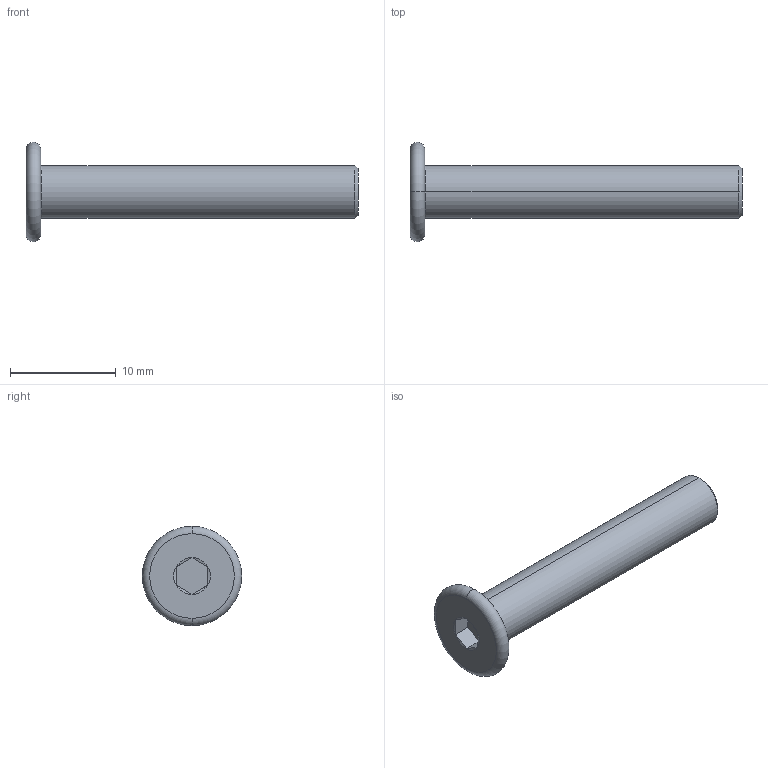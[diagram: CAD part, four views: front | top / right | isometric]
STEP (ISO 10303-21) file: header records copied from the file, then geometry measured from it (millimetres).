
FILE_DESCRIPTION (( 'STEP AP203' ), '1' );
FILE_NAME ('LGD-304M-M5x30.STEP', '2026-08-13T11:04:19', ( '' ), ( '' ), 'SwSTEP 2.0', 'SolidWorks 2020', '' );
FILE_SCHEMA (( 'CONFIG_CONTROL_DESIGN' ));
Length unit declared in the file: millimetre
Products named in the file (1): LGD-304M-M5x30
Bounding box: 31.4 x 9.4 x 9.4 mm (x, y, z)
Volume: 666.3 mm3; surface area: 646.9 mm2
Topology: 1 solids, 1 shells, 24 faces, 44 edges, 24 vertices
Faces by surface type: plane 10, cone 8, torus 4, cylinder 2
Entity records: 673 total; most frequent: CARTESIAN_POINT 119, DIRECTION 110, ORIENTED_EDGE 88, AXIS2_PLACEMENT_3D 47, EDGE_CURVE 44, EDGE_LOOP 26, ADVANCED_FACE 24, VERTEX_POINT 24
